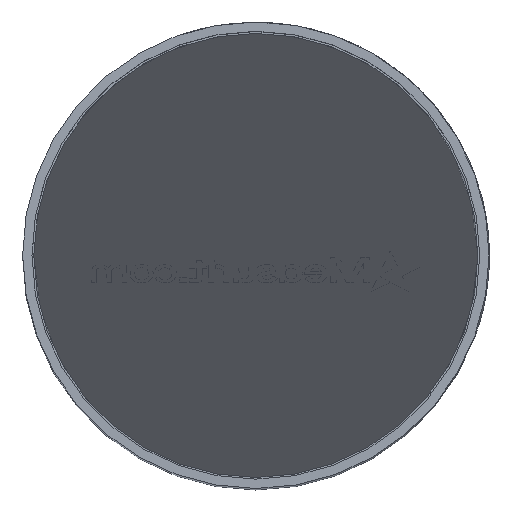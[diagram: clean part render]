
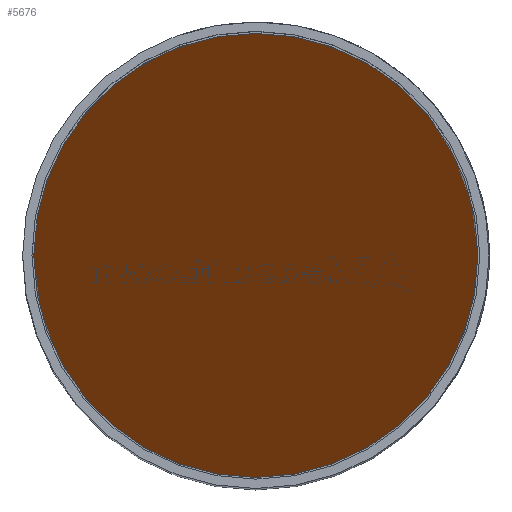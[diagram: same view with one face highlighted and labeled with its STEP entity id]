
A CAD part, top view. The second image highlights one B-rep face of the part: STEP entity #5676.
In plain terms, the highlighted planar face has unit normal (0, -0.707, 0.707).
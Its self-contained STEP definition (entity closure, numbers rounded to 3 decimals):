
#626 = VERTEX_POINT ( 'NONE', #52515 ) ;
#1700 = CARTESIAN_POINT ( 'NONE',  ( 357., 0., 712.828 ) ) ;
#2570 = CARTESIAN_POINT ( 'NONE',  ( 357., 714., 1426.828 ) ) ;
#5676 = ADVANCED_FACE ( 'NONE', ( #62006 ), #22349, .F. ) ;
#7561 = ORIENTED_EDGE ( 'NONE', *, *, #40226, .T. ) ;
#10675 = DIRECTION ( 'NONE',  ( 0., 0.707, 0.707 ) ) ;
#17502 = EDGE_CURVE ( 'NONE', #626, #32246, #44630, .T. ) ;
#18543 = AXIS2_PLACEMENT_3D ( 'NONE', #67082, #36910, #10675 ) ;
#21670 = CARTESIAN_POINT ( 'NONE',  ( -357., 0., 712.828 ) ) ;
#22131 = CARTESIAN_POINT ( 'NONE',  ( 357., -714., -1.172 ) ) ;
#22349 = PLANE ( 'NONE',  #18543 ) ;
#22531 = CARTESIAN_POINT ( 'NONE',  ( 357., 0., 712.828 ) ) ;
#27932 = CARTESIAN_POINT ( 'NONE',  ( -357., 714., 1426.828 ) ) ;
#32246 = VERTEX_POINT ( 'NONE', #33530 ) ;
#33530 = CARTESIAN_POINT ( 'NONE',  ( -357., 0., 712.828 ) ) ;
#36910 = DIRECTION ( 'NONE',  ( 0., 0.707, -0.707 ) ) ;
#40226 = EDGE_CURVE ( 'NONE', #32246, #626, #72575, .T. ) ;
#44630 =( BOUNDED_CURVE ( )  B_SPLINE_CURVE ( 3, ( #1700, #2570, #27932, #21670 ),
 .UNSPECIFIED., .F., .F. ) 
 B_SPLINE_CURVE_WITH_KNOTS ( ( 4, 4 ),
 ( 1.571, 4.712 ),
 .UNSPECIFIED. ) 
 CURVE ( )  GEOMETRIC_REPRESENTATION_ITEM ( )  RATIONAL_B_SPLINE_CURVE ( ( 1., 0.333, 0.333, 1. ) ) 
 REPRESENTATION_ITEM ( '' )  );
#49753 = ORIENTED_EDGE ( 'NONE', *, *, #17502, .T. ) ;
#52515 = CARTESIAN_POINT ( 'NONE',  ( 357., 0., 712.828 ) ) ;
#54266 = CARTESIAN_POINT ( 'NONE',  ( -357., 0., 712.828 ) ) ;
#62006 = FACE_OUTER_BOUND ( 'NONE', #74870, .T. ) ;
#67082 = CARTESIAN_POINT ( 'NONE',  ( 1151.575, -356.414, 356.414 ) ) ;
#72575 =( BOUNDED_CURVE ( )  B_SPLINE_CURVE ( 3, ( #54266, #73604, #22131, #22531 ),
 .UNSPECIFIED., .F., .F. ) 
 B_SPLINE_CURVE_WITH_KNOTS ( ( 4, 4 ),
 ( 4.712, 7.854 ),
 .UNSPECIFIED. ) 
 CURVE ( )  GEOMETRIC_REPRESENTATION_ITEM ( )  RATIONAL_B_SPLINE_CURVE ( ( 1., 0.333, 0.333, 1. ) ) 
 REPRESENTATION_ITEM ( '' )  );
#73604 = CARTESIAN_POINT ( 'NONE',  ( -357., -714., -1.172 ) ) ;
#74870 = EDGE_LOOP ( 'NONE', ( #7561, #49753 ) ) ;
